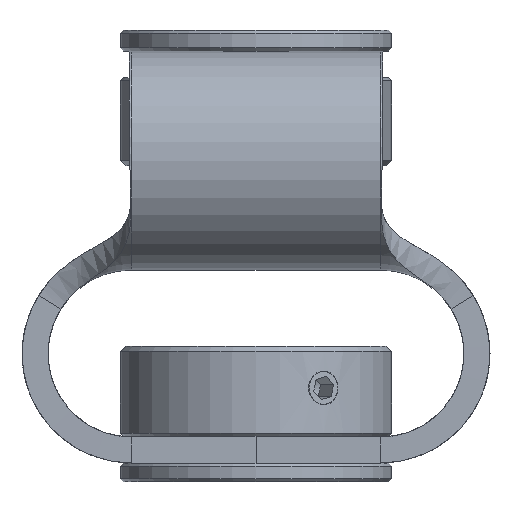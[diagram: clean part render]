
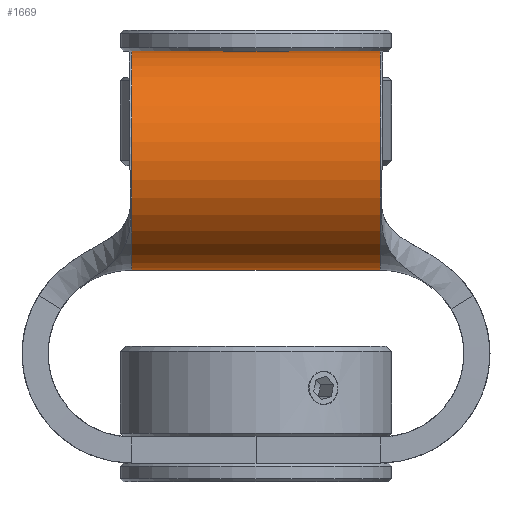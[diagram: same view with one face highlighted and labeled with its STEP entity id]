
A CAD part, front view. The second image highlights one B-rep face of the part: STEP entity #1669.
In plain terms, the highlighted cylindrical face has radius 10.5 mm (diameter 21 mm), a partial arc.
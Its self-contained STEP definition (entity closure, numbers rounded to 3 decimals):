
#165=CYLINDRICAL_SURFACE('',#1826,10.5);
#218=FACE_OUTER_BOUND('',#338,.T.);
#338=EDGE_LOOP('',(#1237,#1238,#1239,#1240));
#495=CIRCLE('',#1790,10.5);
#518=CIRCLE('',#1827,10.5);
#630=LINE('',#2749,#724);
#631=LINE('',#2752,#725);
#724=VECTOR('',#2153,23.867);
#725=VECTOR('',#2156,23.867);
#796=VERTEX_POINT('',#2611);
#797=VERTEX_POINT('',#2616);
#830=VERTEX_POINT('',#2748);
#831=VERTEX_POINT('',#2750);
#942=EDGE_CURVE('',#797,#796,#495,.T.);
#993=EDGE_CURVE('',#830,#796,#630,.T.);
#994=EDGE_CURVE('',#830,#831,#518,.T.);
#995=EDGE_CURVE('',#797,#831,#631,.T.);
#1237=ORIENTED_EDGE('',*,*,#942,.T.);
#1238=ORIENTED_EDGE('',*,*,#993,.F.);
#1239=ORIENTED_EDGE('',*,*,#994,.T.);
#1240=ORIENTED_EDGE('',*,*,#995,.F.);
#1669=ADVANCED_FACE('',(#218),#165,.T.);
#1790=AXIS2_PLACEMENT_3D('',#2617,#2054,#2055);
#1826=AXIS2_PLACEMENT_3D('',#2747,#2151,#2152);
#1827=AXIS2_PLACEMENT_3D('',#2751,#2154,#2155);
#2054=DIRECTION('center_axis',(1.,0.,0.));
#2055=DIRECTION('ref_axis',(0.,-1.,0.));
#2151=DIRECTION('center_axis',(-1.,0.,0.));
#2152=DIRECTION('ref_axis',(0.,-1.,0.));
#2153=DIRECTION('',(-1.,0.,0.));
#2154=DIRECTION('center_axis',(-1.,0.,0.));
#2155=DIRECTION('ref_axis',(0.,-1.,0.));
#2156=DIRECTION('',(1.,0.,0.));
#2611=CARTESIAN_POINT('',(35.5,-16.867,0.));
#2616=CARTESIAN_POINT('',(35.5,-16.867,21.));
#2617=CARTESIAN_POINT('Origin',(35.5,-16.867,10.5));
#2747=CARTESIAN_POINT('Origin',(47.434,-16.867,10.5));
#2748=CARTESIAN_POINT('',(59.367,-16.867,0.));
#2749=CARTESIAN_POINT('',(41.934,-16.867,0.));
#2750=CARTESIAN_POINT('',(59.367,-16.867,21.));
#2751=CARTESIAN_POINT('Origin',(59.367,-16.867,10.5));
#2752=CARTESIAN_POINT('',(41.934,-16.867,21.));
